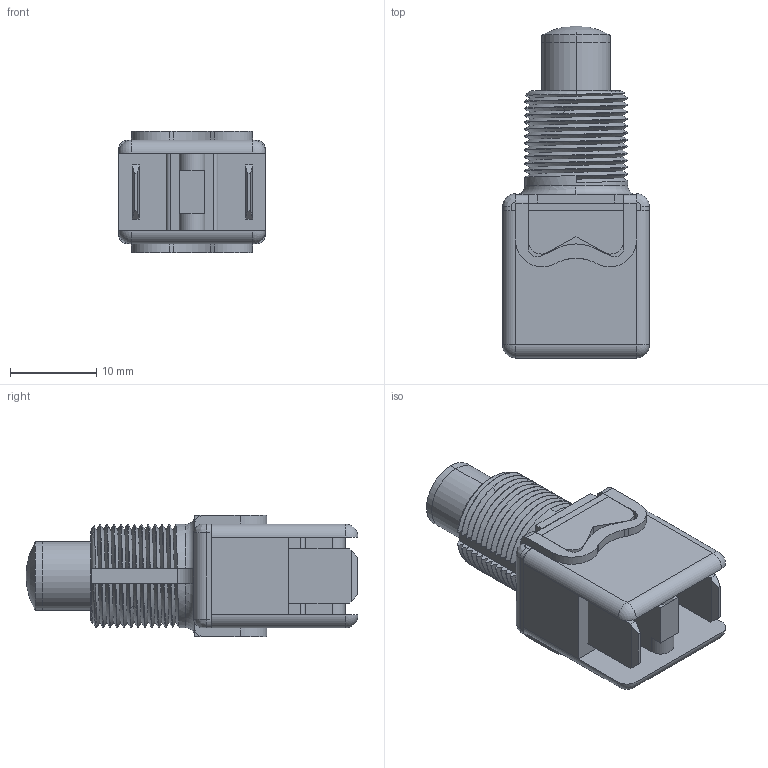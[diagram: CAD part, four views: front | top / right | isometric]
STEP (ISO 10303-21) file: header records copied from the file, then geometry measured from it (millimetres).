
FILE_DESCRIPTION((''),'2;1');
FILE_NAME('1212C','2014-12-17T',('brevel'),(''),'PRO/ENGINEER BY PARAMETRIC TECHNOLOGY CORPORATION, 2013410','PRO/ENGINEER BY PARAMETRIC TECHNOLOGY CORPORATION, 2013410','');
FILE_SCHEMA(('CONFIG_CONTROL_DESIGN'));
Length unit declared in the file: millimetre
Products named in the file (1): 1212C
Bounding box: 17 x 38.4 x 14 mm (x, y, z)
Surface area: 3652.1 mm2 (no closed solid volume)
Topology: 0 solids, 6 shells, 190 faces, 647 edges, 452 vertices
Faces by surface type: plane 90, cylinder 53, bspline 36, sphere 6, torus 5
Entity records: 12221 total; most frequent: CARTESIAN_POINT 6957, ORIENTED_EDGE 1160, DIRECTION 918, EDGE_CURVE 643, VERTEX_POINT 454, VECTOR 360, LINE 360, AXIS2_PLACEMENT_3D 279
